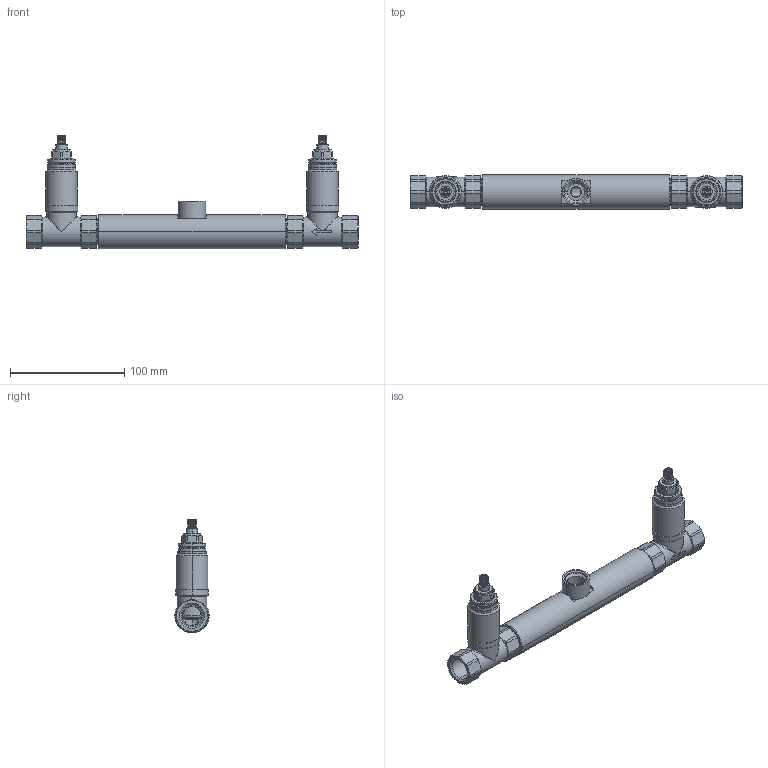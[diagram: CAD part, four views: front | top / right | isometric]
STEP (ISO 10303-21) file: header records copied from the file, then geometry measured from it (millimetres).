
FILE_DESCRIPTION((''),'2;1');
FILE_NAME('F2230_FILE_3D','2014-05-05T',('ivanv'),(''),'PRO/ENGINEER BY PARAMETRIC TECHNOLOGY CORPORATION, 2012130','PRO/ENGINEER BY PARAMETRIC TECHNOLOGY CORPORATION, 2012130','');
FILE_SCHEMA(('CONFIG_CONTROL_DESIGN'));
Length unit declared in the file: millimetre
Products named in the file (1): F2230_FILE_3D
Bounding box: 290 x 30 x 99.5 mm (x, y, z)
Volume: 187110.5 mm3; surface area: 69884.2 mm2
Topology: 1 solids, 1 shells, 693 faces, 1754 edges, 1092 vertices
Faces by surface type: plane 253, cylinder 220, cone 164, torus 36, bspline 20
Entity records: 24086 total; most frequent: CARTESIAN_POINT 7599, ORIENTED_EDGE 3492, DIRECTION 3446, EDGE_CURVE 1746, AXIS2_PLACEMENT_3D 1361, VERTEX_POINT 1092, EDGE_LOOP 734, VECTOR 724
